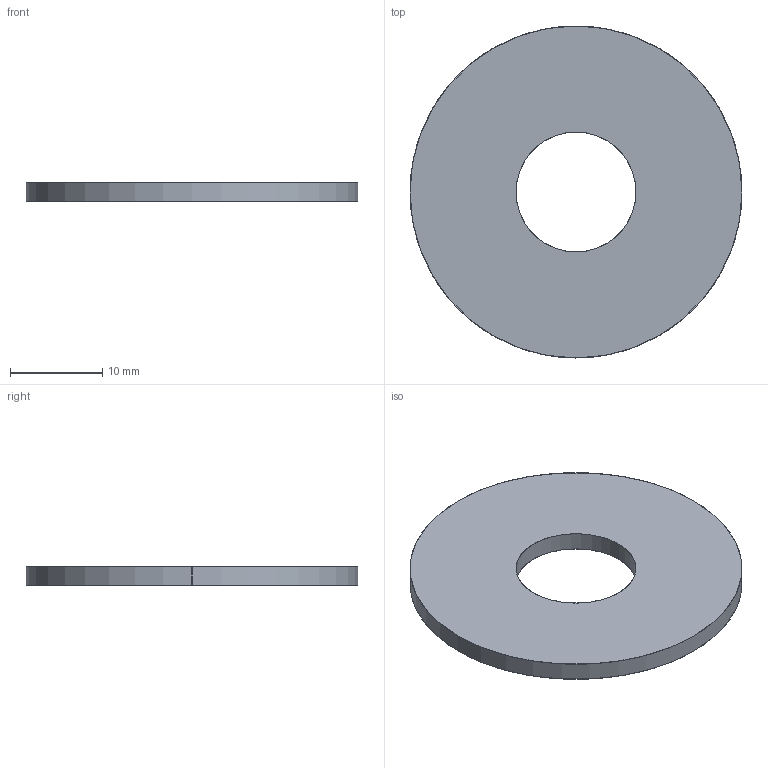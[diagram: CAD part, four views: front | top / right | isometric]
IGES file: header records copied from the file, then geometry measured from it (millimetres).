
Start section: SolidWorks IGES file using analytic representation for surfaces
Global section: file name: C:\Users\liam_\OneDrive\Desktop\Work\Mat Davis Pending 20181125\automotion\P SERIES\P0333.A4_v2\P0333.A4_v2_20181217_IGES\P0333.120-036-A4.igs; native system: SolidWorks 2017; preprocessor: SolidWorks 2017; author: liam_; date: 181217.190927; units: millimetre
Bounding box: 36 x 36 x 2 mm (x, y, z)
Surface area: 2078.2 mm2 (no closed solid volume)
Topology: 0 solids, 0 shells, 6 faces, 208 edges, 208 vertices
Faces by surface type: revolution 4, bspline 2
